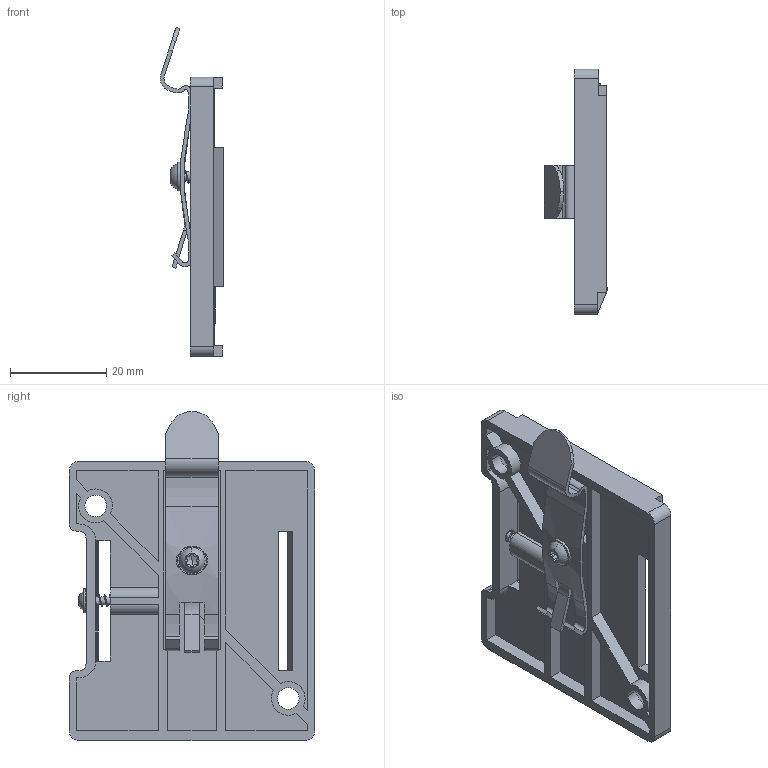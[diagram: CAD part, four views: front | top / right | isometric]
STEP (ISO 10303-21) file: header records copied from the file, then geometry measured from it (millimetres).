
FILE_DESCRIPTION((''),'2;1');
FILE_NAME('0000205424_ASM','2018-12-06T',('11000600'),(''),'CREO PARAMETRIC BY PTC INC, 2017480','CREO PARAMETRIC BY PTC INC, 2017480','');
FILE_SCHEMA(('AUTOMOTIVE_DESIGN { 1 0 10303 214 1 1 1 1 }'));
Length unit declared in the file: millimetre
Products named in the file (6): 0000126024; 0000205423; 0000205569_ASM; 0000205439; 0000205435; 0000205424_ASM
Assembly tree (5 placements, depth 3):
  0000205424_ASM
    0000205569_ASM
      0000126024
      0000205423
    0000205439
    0000205435
Bounding box: 13.24 x 51 x 68.35 mm (x, y, z)
Volume: 9158.2 mm3; surface area: 10466.4 mm2
Topology: 2 solids, 4 shells, 499 faces, 1323 edges, 846 vertices
Faces by surface type: plane 223, cylinder 117, bspline 70, extrusion 38, cone 27, torus 16, sphere 8
Entity records: 41691 total; most frequent: CARTESIAN_POINT 22122, ORIENTED_EDGE 2570, DIRECTION 2053, PRESENTATION_STYLE_ASSIGNMENT 1319, STYLED_ITEM 1319, CURVE_STYLE 1315, EDGE_CURVE 1315, VERTEX_POINT 846
